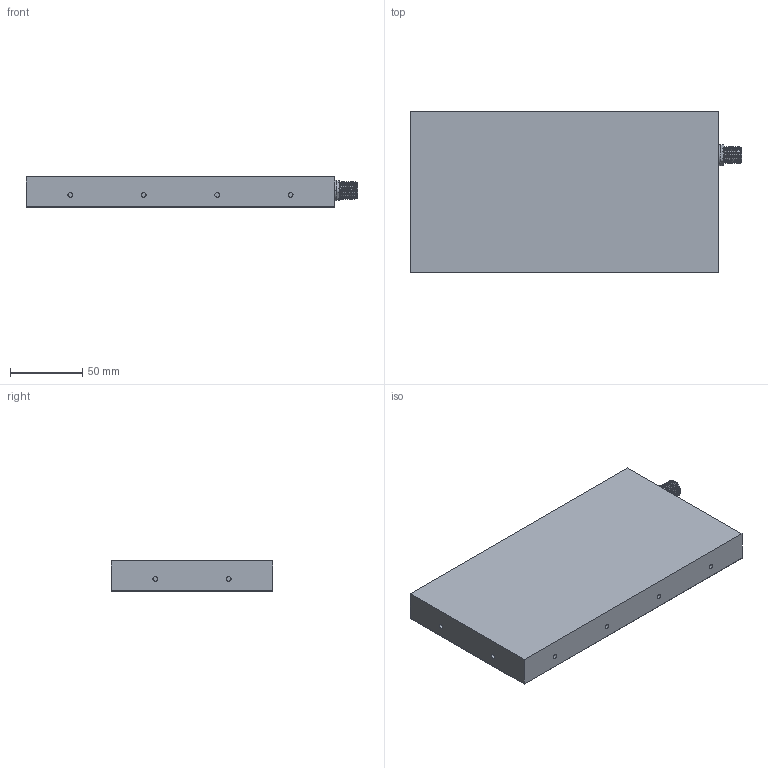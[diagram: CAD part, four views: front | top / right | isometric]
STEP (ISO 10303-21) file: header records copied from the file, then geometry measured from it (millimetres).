
FILE_DESCRIPTION (( 'STEP AP214' ), '1' );
FILE_NAME ('CSBACKII-xxxx-xxx_CLIENT2010.STEP', '2022-04-01T09:18:47', ( '' ), ( '' ), 'SwSTEP 2.0', 'SolidWorks 2020', '' );
FILE_SCHEMA (( 'AUTOMOTIVE_DESIGN' ));
Length unit declared in the file: millimetre
Products named in the file (1): CSBACKII-xxxx-xxx_CLIENT2010
Bounding box: 230 x 112 x 21.06 mm (x, y, z)
Volume: 505599.7 mm3; surface area: 63472.7 mm2
Topology: 1 solids, 2 shells, 328 faces, 819 edges, 538 vertices
Faces by surface type: plane 172, bspline 83, cylinder 65, torus 8
Entity records: 15314 total; most frequent: CARTESIAN_POINT 8015, ORIENTED_EDGE 1638, DIRECTION 1235, EDGE_CURVE 819, VERTEX_POINT 538, VECTOR 479, LINE 479, AXIS2_PLACEMENT_3D 378
